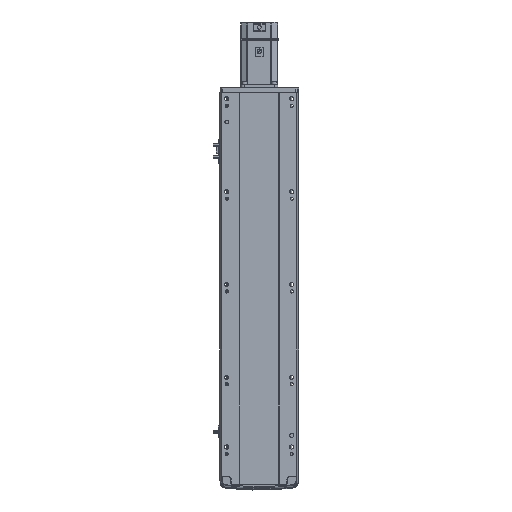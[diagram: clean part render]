
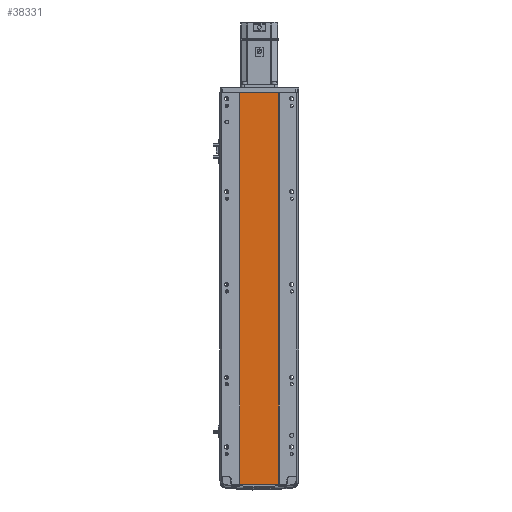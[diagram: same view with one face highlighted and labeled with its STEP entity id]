
A CAD part, front view. The second image highlights one B-rep face of the part: STEP entity #38331.
In plain terms, the highlighted planar face has unit normal (0, -1, 0).
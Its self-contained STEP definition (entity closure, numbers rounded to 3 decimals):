
#2449 = VECTOR ( 'NONE', #47738, 1000. ) ;
#4328 = LINE ( 'NONE', #48080, #2449 ) ;
#4461 = DIRECTION ( 'NONE',  ( 1., 0., 0. ) ) ;
#8534 = ORIENTED_EDGE ( 'NONE', *, *, #29336, .T. ) ;
#9445 = DIRECTION ( 'NONE',  ( -1., 0., 0. ) ) ;
#9747 = FACE_OUTER_BOUND ( 'NONE', #51051, .T. ) ;
#10595 = LINE ( 'NONE', #36158, #40915 ) ;
#11284 = ORIENTED_EDGE ( 'NONE', *, *, #34063, .T. ) ;
#11727 = VERTEX_POINT ( 'NONE', #36488 ) ;
#14037 = DIRECTION ( 'NONE',  ( 0., 1., 0. ) ) ;
#14266 = CARTESIAN_POINT ( 'NONE',  ( 41.793, 0.998, 0. ) ) ;
#14500 = LINE ( 'NONE', #37755, #34049 ) ;
#17088 = DIRECTION ( 'NONE',  ( 0., 0., -1. ) ) ;
#18869 = LINE ( 'NONE', #37361, #39091 ) ;
#19100 = VERTEX_POINT ( 'NONE', #24303 ) ;
#21369 = DIRECTION ( 'NONE',  ( 1., 0., 0. ) ) ;
#24303 = CARTESIAN_POINT ( 'NONE',  ( -41.791, 1., 843.5 ) ) ;
#25735 = VERTEX_POINT ( 'NONE', #14266 ) ;
#27904 = ORIENTED_EDGE ( 'NONE', *, *, #34580, .F. ) ;
#29336 = EDGE_CURVE ( 'NONE', #19100, #11727, #18869, .T. ) ;
#33576 = CARTESIAN_POINT ( 'NONE',  ( 0., 0.999, 843.5 ) ) ;
#33698 = AXIS2_PLACEMENT_3D ( 'NONE', #33576, #14037, #9445 ) ;
#34049 = VECTOR ( 'NONE', #21369, 1000. ) ;
#34063 = EDGE_CURVE ( 'NONE', #11727, #25735, #14500, .T. ) ;
#34580 = EDGE_CURVE ( 'NONE', #43537, #25735, #4328, .T. ) ;
#35791 = EDGE_CURVE ( 'NONE', #19100, #43537, #10595, .T. ) ;
#36158 = CARTESIAN_POINT ( 'NONE',  ( 0., 0.999, 843.5 ) ) ;
#36488 = CARTESIAN_POINT ( 'NONE',  ( -41.791, 1., 0. ) ) ;
#37182 = ORIENTED_EDGE ( 'NONE', *, *, #35791, .F. ) ;
#37361 = CARTESIAN_POINT ( 'NONE',  ( -41.791, 1., 843.5 ) ) ;
#37755 = CARTESIAN_POINT ( 'NONE',  ( 0., 0.999, 0. ) ) ;
#38331 = ADVANCED_FACE ( 'NONE', ( #9747 ), #38344, .F. ) ;
#38344 = PLANE ( 'NONE',  #33698 ) ;
#39091 = VECTOR ( 'NONE', #17088, 1000. ) ;
#40915 = VECTOR ( 'NONE', #4461, 1000. ) ;
#43537 = VERTEX_POINT ( 'NONE', #45441 ) ;
#45441 = CARTESIAN_POINT ( 'NONE',  ( 41.793, 0.998, 843.5 ) ) ;
#47738 = DIRECTION ( 'NONE',  ( 0., 0., -1. ) ) ;
#48080 = CARTESIAN_POINT ( 'NONE',  ( 41.793, 0.998, 843.5 ) ) ;
#51051 = EDGE_LOOP ( 'NONE', ( #11284, #27904, #37182, #8534 ) ) ;
